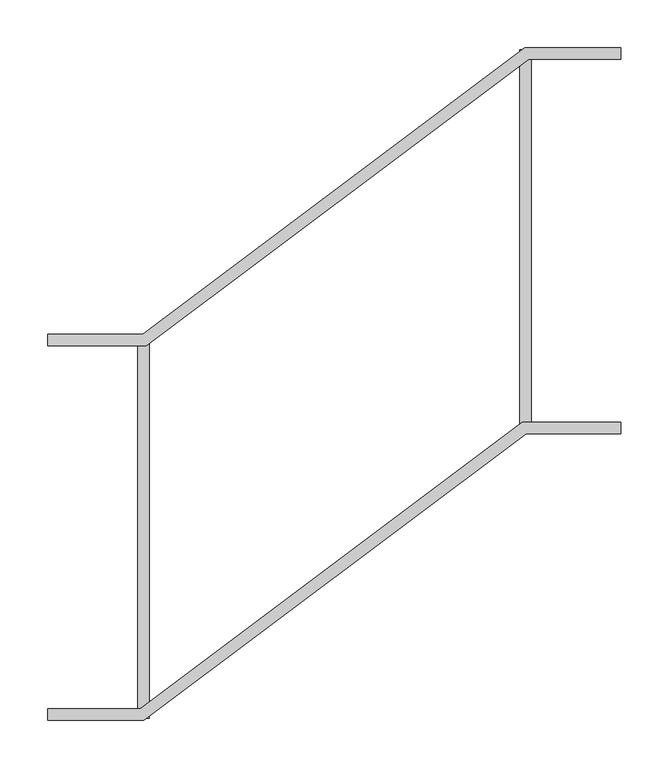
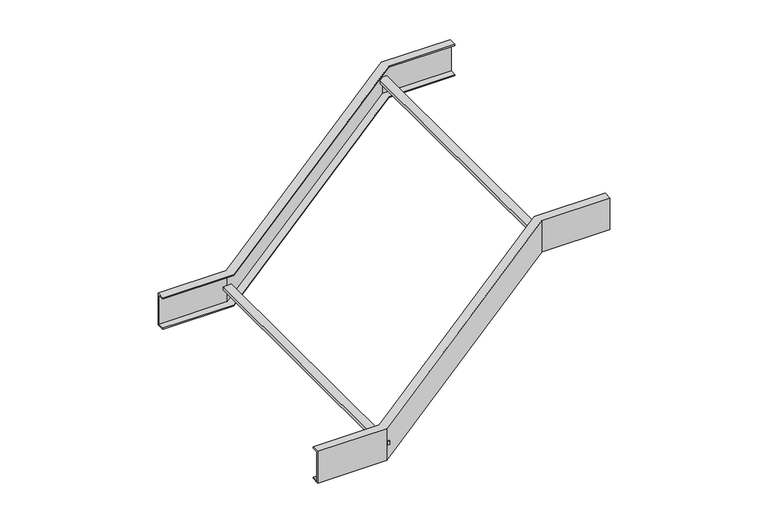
"""IFC4 building model written with IfcOpenShell, lengths in millimetres: cable carrier fitting geometry, BAKS_LD_CONN_Univarsal connector offset_LLUS : LLUSP_H45."""

from ifc_helpers import new_model, si_unit, frame, origin, place, context, project, spatial, polyline, outline, extrude, faceted_brep, source, transform, mapped, element, save


def cable_carrier_fitting_ba505e55(model_context):
    return source(origin(), model_context, "Body", "SolidModel", [
        extrude(outline(polyline([(24.0, 200.0), (36.0, 200.0), (36.0, -200.0), (24.0, -200.0), (24.0, 200.0)])), frame((0.0, 0.0, -2.5), z_axis=(0.0, 0.0, 1.0), x_axis=(1.0, 0.0, 0.0)), (0.0, 0.0, 1.0), 5.0),
        extrude(outline(polyline([(436.0, 100.0), (424.0, 100.0), (424.0, 500.0), (436.0, 500.0), (436.0, 100.0)])), frame((0.0, 0.0, -2.5), z_axis=(0.0, 0.0, 1.0), x_axis=(1.0, 0.0, 0.0)), (0.0, 0.0, 1.0), 5.0),
        faceted_brep([(-70.0, -190.0, 24.5), (-70.0, -190.0, 22.5), (-70.0, -200.0, 22.5), (-70.0, -200.0, -22.5), (-70.0, -190.0, -22.5), (-70.0, -190.0, -24.5), (-70.0, -202.0, -24.5), (-70.0, -202.0, 24.5), (26.6666667, -190.0, 24.5), (26.6666667, -190.0, 22.5), (426.6666667, 110.0, 22.5), (530.0, 110.0, 22.5), (530.0, 100.0, 22.5), (430.0, 100.0, 22.5), (30.0, -200.0, 22.5), (30.0, -200.0, -22.5), (430.0, 100.0, -22.5), (530.0, 100.0, -22.5), (530.0, 110.0, -22.5), (426.6666667, 110.0, -22.5), (26.6666667, -190.0, -22.5), (26.6666667, -190.0, -24.5), (426.6666667, 110.0, -24.5), (530.0, 110.0, -24.5), (530.0, 98.0, -24.5), (430.6666667, 98.0, -24.5), (30.6666667, -202.0, -24.5), (30.6666667, -202.0, 24.5), (430.6666667, 98.0, 24.5), (530.0, 98.0, 24.5), (530.0, 110.0, 24.5), (426.6666667, 110.0, 24.5)], [[[0, 1, 2, 3, 4, 5, 6, 7]], [[1, 0, 8, 9]], [[2, 1, 9, 10, 11, 12, 13, 14]], [[3, 2, 14, 15]], [[4, 3, 15, 16, 17, 18, 19, 20]], [[5, 4, 20, 21]], [[6, 5, 21, 22, 23, 24, 25, 26]], [[7, 6, 26, 27]], [[0, 7, 27, 28, 29, 30, 31, 8]], [[9, 8, 31, 10]], [[15, 14, 13, 16]], [[21, 20, 19, 22]], [[27, 26, 25, 28]], [[30, 29, 24, 23, 18, 17, 12, 11]], [[10, 31, 30, 11]], [[16, 13, 12, 17]], [[22, 19, 18, 23]], [[28, 25, 24, 29]]]),
        faceted_brep([(530.0, 490.0, 24.5), (530.0, 490.0, 22.5), (530.0, 500.0, 22.5), (530.0, 500.0, -22.5), (530.0, 490.0, -22.5), (530.0, 490.0, -24.5), (530.0, 502.0, -24.5), (530.0, 502.0, 24.5), (433.3333333, 490.0, 24.5), (433.3333333, 490.0, 22.5), (33.3333333, 190.0, 22.5), (-70.0, 190.0, 22.5), (-70.0, 200.0, 22.5), (30.0, 200.0, 22.5), (430.0, 500.0, 22.5), (430.0, 500.0, -22.5), (30.0, 200.0, -22.5), (-70.0, 200.0, -22.5), (-70.0, 190.0, -22.5), (33.3333333, 190.0, -22.5), (433.3333333, 490.0, -22.5), (433.3333333, 490.0, -24.5), (33.3333333, 190.0, -24.5), (-70.0, 190.0, -24.5), (-70.0, 202.0, -24.5), (29.3333333, 202.0, -24.5), (429.3333333, 502.0, -24.5), (429.3333333, 502.0, 24.5), (29.3333333, 202.0, 24.5), (-70.0, 202.0, 24.5), (-70.0, 190.0, 24.5), (33.3333333, 190.0, 24.5)], [[[0, 1, 2, 3, 4, 5, 6, 7]], [[1, 0, 8, 9]], [[2, 1, 9, 10, 11, 12, 13, 14]], [[3, 2, 14, 15]], [[4, 3, 15, 16, 17, 18, 19, 20]], [[5, 4, 20, 21]], [[6, 5, 21, 22, 23, 24, 25, 26]], [[7, 6, 26, 27]], [[0, 7, 27, 28, 29, 30, 31, 8]], [[9, 8, 31, 10]], [[15, 14, 13, 16]], [[21, 20, 19, 22]], [[27, 26, 25, 28]], [[30, 29, 24, 23, 18, 17, 12, 11]], [[10, 31, 30, 11]], [[16, 13, 12, 17]], [[22, 19, 18, 23]], [[28, 25, 24, 29]]]),
    ])


if __name__ == "__main__":
    model = new_model("IFC4")
    model_context = context("Model", 3, world=origin())
    ifc_project = project(units=[si_unit("LENGTHUNIT", "METRE", prefix="MILLI")], contexts=[model_context])
    site = spatial("IfcSite", under=ifc_project)
    building = spatial("IfcBuilding", under=site)
    placement = place(None, origin())
    cable_carrier_fitting_shape = cable_carrier_fitting_ba505e55(model_context)
    element("IfcCableCarrierFitting", 1, ObjectType="BAKS_LD_CONN_Univarsal connector offset_LLUS : LLUSP_H45", at=placement, inside=building, context=model_context, shape_type="MappedRepresentation", body=[
        mapped(cable_carrier_fitting_shape, transform((0.0, 0.0, 0.0), x_axis=(1.0, 0.0, 0.0), y_axis=(0.0, 1.0, 0.0), z_axis=(0.0, 0.0, 1.0))),
    ])
    save(model, "model.ifc")
